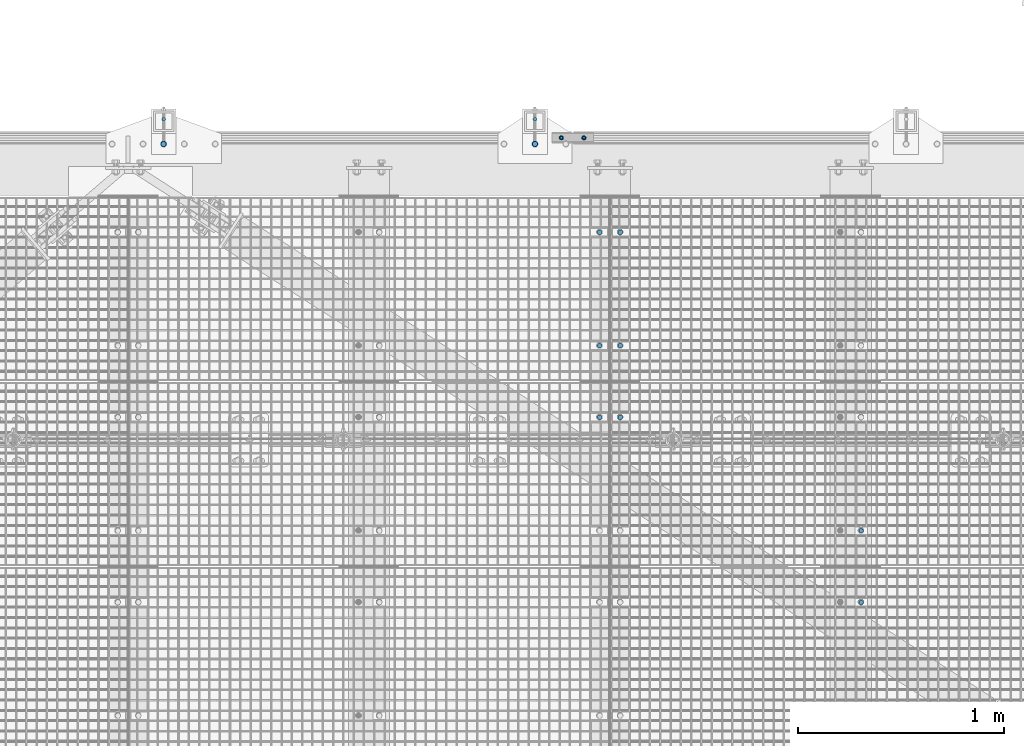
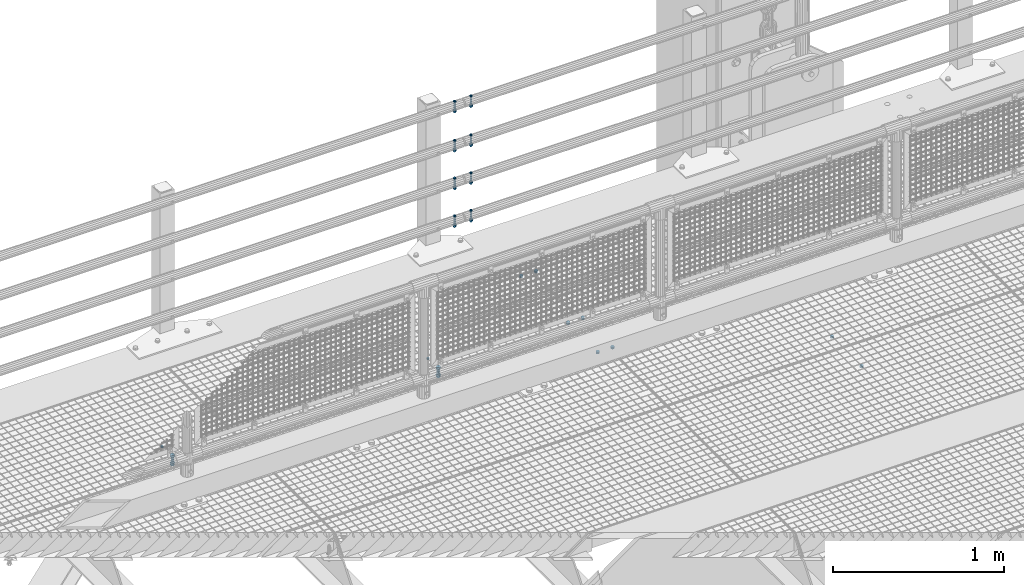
# One storey, part 93 of 1530: 20 mechanical fasteners.
"""IFC2X3 building model written with IfcOpenShell, lengths in millimetres."""

from ifc_helpers import new_model, si_unit, frame, origin_with_axes, place, context, subcontext, project, spatial, faceted_brep, source, transform, mapped, material, type_object, element, save


model = new_model("IFC2X3")

# Units and contexts
model_context = context("Model", 3, precision=1e-05, world=origin_with_axes())
body_context = subcontext(model_context, "Body", "Model", "MODEL_VIEW")
ifc_project = project(units=[si_unit("LENGTHUNIT", "METRE", prefix="MILLI"), si_unit("AREAUNIT", "SQUARE_METRE"), si_unit("VOLUMEUNIT", "CUBIC_METRE"), si_unit("MASSUNIT", "GRAM", prefix="KILO"), si_unit("TIMEUNIT", "SECOND"), si_unit("PLANEANGLEUNIT", "RADIAN"), si_unit("SOLIDANGLEUNIT", "STERADIAN"), si_unit("THERMODYNAMICTEMPERATUREUNIT", "DEGREE_CELSIUS"), si_unit("LUMINOUSINTENSITYUNIT", "LUMEN")], contexts=[model_context])

# Site, building, storey
site_placement = place(None, origin_with_axes())
site = spatial("IfcSite", under=ifc_project, at=site_placement, Name="Brattvåg", CompositionType="ELEMENT")
building_placement = place(site_placement, origin_with_axes())
building = spatial("IfcBuilding", under=site, at=building_placement, Name="Undefined", CompositionType="ELEMENT")
storey_placement = place(building_placement, origin_with_axes())
storey = spatial("IfcBuildingStorey", under=building, at=storey_placement, Name="Undefined", CompositionType="ELEMENT", Elevation=0.0)

# Mechanical fasteners
ifc_material = material(Name="8")
mechanical_fastener_type = type_object("IfcMechanicalFastenerType", Name="Bolt assembly")
shared_shape_1 = source(origin_with_axes(), body_context, "Body", "Brep", [
    faceted_brep([(11.0, -4.99999999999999, 0.0), (9.52627944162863, -4.99999999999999, 5.50000000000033), (5.49999999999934, -4.99999999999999, 9.5262794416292), (-1.13996957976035e-12, -4.99999999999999, 11.0), (-5.50000000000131, -4.99999999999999, 9.52627944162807), (-9.52627944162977, -4.99999999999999, 5.49999999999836), (-11.0, -4.99999999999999, -2.27993915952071e-12), (-9.5262794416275, -4.99999999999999, -5.5000000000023), (-5.49999999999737, -4.99999999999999, -9.52627944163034), (3.40769628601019e-12, -4.99999999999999, -11.0), (5.50000000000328, -4.99999999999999, -9.52627944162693), (9.52627944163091, -4.99999999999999, -5.49999999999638), (9.52627944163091, 10.1, -5.49999999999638), (5.50000000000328, 10.1, -9.52627944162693), (3.40769628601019e-12, 10.1, -11.0), (-5.49999999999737, 10.1, -9.52627944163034), (-9.5262794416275, 10.1, -5.5000000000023), (-11.0, 10.1, -2.27993915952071e-12), (-9.52627944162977, 10.1, 5.49999999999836), (-5.50000000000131, 10.1, 9.52627944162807), (-1.13996957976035e-12, 10.1, 11.0), (5.49999999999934, 10.1, 9.5262794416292), (9.52627944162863, 10.1, 5.50000000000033), (11.0, 10.1, 0.0)], [[[0, 1, 2, 3, 4, 5, 6, 7, 8, 9, 10, 11]], [[12, 13, 14, 15, 16, 17, 18, 19, 20, 21, 22, 23]], [[0, 23, 22, 1]], [[1, 22, 21, 2]], [[2, 21, 20, 3]], [[3, 20, 19, 4]], [[4, 19, 18, 5]], [[5, 18, 17, 6]], [[6, 17, 16, 7]], [[7, 16, 15, 8]], [[8, 15, 14, 9]], [[9, 14, 13, 10]], [[10, 13, 12, 11]], [[11, 12, 23, 0]]]),
])
for number, where, z_axis, x_axis, name in (
    (1, (9964.00477935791, 8121.98931152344, -35.0), (0.0, 1.0, 0.0), (1.0, 0.0, 0.0), "Bolt assembly"),
    (2, (9964.00477935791, 8671.99411010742, -35.0), (0.0, 1.0, 0.0), (1.0, 0.0, 0.0), "Bolt assembly"),
    (3, (9964.00477935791, 7774.99411010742, -35.0), (0.0, 1.0, 0.0), (1.0, 0.0, 0.0), "Bolt assembly"),
    (4, (11132.0119254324, 7224.99, -35.0), (0.0, -1.0, 0.0), (-1.0, 1.99999855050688e-09, 0.0), "Bolt assembly"),
    (5, (11132.0145606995, 6877.99565124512, -35.0), (0.0, -1.0, 0.0), (-1.0, 1.99999855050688e-09, 0.0), "Bolt assembly"),
    (6, (9864.01487731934, 8671.99411010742, -35.0), (0.0, -1.0, 0.0), (-1.0, 1.99999855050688e-09, 0.0), "Bolt assembly"),
    (7, (9864.01487731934, 8121.9904864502, -35.0), (0.0, -1.0, 0.0), (-1.0, 1.99999855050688e-09, 0.0), "Bolt assembly"),
    (8, (9864.01487731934, 7774.99411010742, -35.0), (0.0, -1.0, 0.0), (-1.0, 1.99999855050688e-09, 0.0), "Bolt assembly"),
):
    element("IfcMechanicalFastener", number, at=place(storey_placement, frame(where, z_axis=z_axis, x_axis=x_axis)), inside=storey, type_object=mechanical_fastener_type, material=ifc_material, Name=name, NominalDiameter=20.0, NominalLength=15.0, context=body_context, shape_type="MappedRepresentation", body=[
        mapped(shared_shape_1, transform((0.0, 0.0, 0.0))),
    ])
shared_shape_2 = source(origin_with_axes(), body_context, "Body", "Brep", [
    faceted_brep([(9.0, -0.000108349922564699, 0.0), (7.79422863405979, -0.000108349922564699, 4.50000000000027), (4.49999999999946, -0.000108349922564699, 7.79422863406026), (-9.3270238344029e-13, -0.000108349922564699, 9.0), (-4.50000000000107, -0.000108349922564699, 7.79422863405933), (-7.79422863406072, -0.000108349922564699, 4.49999999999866), (-9.0, -0.000108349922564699, -1.86540476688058e-12), (-7.79422863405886, -0.000108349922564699, -4.50000000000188), (-4.49999999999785, -0.000108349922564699, -7.79422863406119), (2.78811514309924e-12, -0.000108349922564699, -9.0), (4.50000000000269, -0.000108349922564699, -7.7942286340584), (7.79422863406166, -0.000108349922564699, -4.49999999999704), (7.79422863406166, 10.0998916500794, -4.49999999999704), (4.50000000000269, 10.0998916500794, -7.7942286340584), (2.78811514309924e-12, 10.0998916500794, -9.0), (-4.49999999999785, 10.0998916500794, -7.79422863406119), (-7.79422863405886, 10.0998916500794, -4.50000000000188), (-9.0, 10.0998916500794, -1.86540476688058e-12), (-7.79422863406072, 10.0998916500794, 4.49999999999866), (-4.50000000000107, 10.0998916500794, 7.79422863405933), (-9.3270238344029e-13, 10.0998916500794, 9.0), (4.49999999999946, 10.0998916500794, 7.79422863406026), (7.79422863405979, 10.0998916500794, 4.50000000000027), (9.0, 10.0998916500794, 0.0)], [[[0, 1, 2, 3, 4, 5, 6, 7, 8, 9, 10, 11]], [[12, 13, 14, 15, 16, 17, 18, 19, 20, 21, 22, 23]], [[0, 23, 22, 1]], [[1, 22, 21, 2]], [[2, 21, 20, 3]], [[3, 20, 19, 4]], [[4, 19, 18, 5]], [[5, 18, 17, 6]], [[6, 17, 16, 7]], [[7, 16, 15, 8]], [[8, 15, 14, 9]], [[9, 14, 13, 10]], [[10, 13, 12, 11]], [[11, 12, 23, 0]]]),
])
for number, where, z_axis, x_axis, name in (
    (9, (7750.00016021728, 9219.99992874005, -855.000061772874), (-1.0, 1.99999855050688e-09, 0.0), (0.0, -0.99999999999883, 1.53000000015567e-06), "Bolt assembly"),
    (10, (9550.00016021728, 9219.99992874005, -855.000061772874), (-1.0, 1.99999855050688e-09, 0.0), (0.0, -0.99999999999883, 1.53000000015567e-06), "Bolt assembly"),
):
    element("IfcMechanicalFastener", number, at=place(storey_placement, frame(where, z_axis=z_axis, x_axis=x_axis)), inside=storey, type_object=mechanical_fastener_type, material=ifc_material, Name=name, NominalDiameter=16.0, NominalLength=10.0001087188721, context=body_context, shape_type="MappedRepresentation", body=[
        mapped(shared_shape_2, transform((0.0, 0.0, 0.0))),
    ])
shared_shape_3 = source(origin_with_axes(), body_context, "Body", "Brep", [
    faceted_brep([(6.49435320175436, -7.50000000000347, 0.0), (4.59220118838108, -7.50000000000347, 4.59220118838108), (3.97664443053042e-16, -7.50000000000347, 6.49435320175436), (-4.59220118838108, -7.50000000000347, 4.59220118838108), (-6.49435320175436, -7.50000000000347, 7.95328886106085e-16), (-4.59220118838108, -7.50000000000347, -4.59220118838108), (-1.19299332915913e-15, -7.50000000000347, -6.49435320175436), (4.59220118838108, -7.50000000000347, -4.59220118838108), (7.34846922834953, -3.46744855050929e-12, -7.34846922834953), (-1.90903542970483e-15, -3.46744855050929e-12, -10.3923048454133), (-7.34846922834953, -3.46744855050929e-12, -7.34846922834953), (-10.3923048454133, 3.46808519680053e-07, 1.27269028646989e-15), (-7.34846922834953, -3.46744855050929e-12, 7.34846922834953), (6.36345143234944e-16, -3.46744855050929e-12, 10.3923048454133), (7.34846922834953, -3.46744855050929e-12, 7.34846922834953), (10.3923048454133, 3.46808519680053e-07, 0.0), (6.0, 3.46808519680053e-07, 0.0), (5.19615242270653, 3.46808519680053e-07, 3.00000000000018), (2.99999999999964, 3.46808519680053e-07, 5.19615242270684), (-6.21801588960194e-13, 3.46808519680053e-07, 6.0), (-3.00000000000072, 3.46808519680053e-07, 5.19615242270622), (-5.19615242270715, 3.46808519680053e-07, 2.9999999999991), (-6.0, 3.46808519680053e-07, -1.24360317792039e-12), (-5.19615242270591, 3.46808519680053e-07, -3.00000000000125), (-2.99999999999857, 3.46808519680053e-07, -5.19615242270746), (1.85874342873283e-12, 3.46808519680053e-07, -6.0), (3.00000000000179, 3.46808519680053e-07, -5.1961524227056), (5.19615242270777, 3.46808519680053e-07, -2.99999999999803), (5.19615242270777, 79.9999999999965, -2.99999999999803), (3.00000000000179, 79.9999999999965, -5.1961524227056), (1.85874342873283e-12, 79.9999999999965, -6.0), (-2.99999999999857, 79.9999999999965, -5.19615242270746), (-5.19615242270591, 79.9999999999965, -3.00000000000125), (-6.0, 79.9999999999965, -1.24360317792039e-12), (-5.19615242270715, 79.9999999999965, 2.9999999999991), (-3.00000000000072, 79.9999999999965, 5.19615242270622), (-6.21801588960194e-13, 79.9999999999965, 6.0), (2.99999999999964, 79.9999999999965, 5.19615242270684), (5.19615242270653, 79.9999999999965, 3.00000000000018), (6.0, 79.9999999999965, 0.0), (12.0, 60.2988956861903, 0.0), (10.3923048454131, 60.2988956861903, 6.00000000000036), (5.99999999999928, 60.2988956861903, 10.3923048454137), (-1.24360317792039e-12, 60.2988956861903, 12.0), (-6.00000000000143, 60.2988956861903, 10.3923048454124), (-10.3923048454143, 60.2988956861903, 5.99999999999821), (-12.0, 60.2988956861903, -2.48720635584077e-12), (-10.3923048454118, 60.2988956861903, -6.00000000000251), (-5.99999999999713, 60.2988956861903, -10.3923048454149), (3.71748685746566e-12, 60.2988956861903, -12.0), (6.00000000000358, 60.2988956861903, -10.3923048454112), (10.3923048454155, 60.2988956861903, -5.99999999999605), (10.3923048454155, 62.7988956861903, -5.99999999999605), (6.00000000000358, 62.7988956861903, -10.3923048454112), (3.71748685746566e-12, 62.7988956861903, -12.0), (-5.99999999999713, 62.7988956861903, -10.3923048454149), (-10.3923048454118, 62.7988956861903, -6.00000000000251), (-12.0, 62.7988956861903, -2.48720635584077e-12), (-10.3923048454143, 62.7988956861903, 5.99999999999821), (-6.00000000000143, 62.7988956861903, 10.3923048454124), (-1.24360317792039e-12, 62.7988956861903, 12.0), (5.99999999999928, 62.7988956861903, 10.3923048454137), (10.3923048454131, 62.7988956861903, 6.00000000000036), (12.0, 62.7988956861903, 0.0), (10.9696551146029, 62.7988956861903, 0.0), (5.48482755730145, 62.7988956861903, 9.5), (-5.48482755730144, 62.7988956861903, 9.5), (-10.9696551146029, 62.7988956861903, 1.34339530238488e-15), (-5.48482755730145, 62.7988956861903, -9.5), (5.48482755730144, 62.7988956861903, -9.5), (5.48482755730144, 73.5988958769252, -9.5), (-5.48482755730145, 73.5988958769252, -9.5), (-10.9696551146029, 73.5988958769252, 1.34339530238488e-15), (-5.48482755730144, 73.5988958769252, 9.5), (5.48482755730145, 73.5988958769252, 9.5), (10.9696551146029, 73.5988958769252, 0.0)], [[[0, 1, 2, 3, 4, 5, 6, 7]], [[8, 9, 10, 11, 12, 13, 14, 15]], [[0, 15, 14, 1]], [[1, 14, 13, 2]], [[2, 13, 12, 3]], [[3, 12, 11, 4]], [[4, 11, 10, 5]], [[5, 10, 9, 6]], [[6, 9, 8, 7]], [[7, 8, 15, 0]], [[16, 17, 18, 19, 20, 21, 22, 23, 24, 25, 26, 27]], [[28, 29, 30, 31, 32, 33, 34, 35, 36, 37, 38, 39]], [[16, 39, 38, 17]], [[17, 38, 37, 18]], [[18, 37, 36, 19]], [[19, 36, 35, 20]], [[20, 35, 34, 21]], [[21, 34, 33, 22]], [[22, 33, 32, 23]], [[23, 32, 31, 24]], [[24, 31, 30, 25]], [[25, 30, 29, 26]], [[26, 29, 28, 27]], [[27, 28, 39, 16]], [[40, 41, 42, 43, 44, 45, 46, 47, 48, 49, 50, 51]], [[52, 53, 54, 55, 56, 57, 58, 59, 60, 61, 62, 63]], [[40, 63, 62, 41]], [[41, 62, 61, 42]], [[42, 61, 60, 43]], [[43, 60, 59, 44]], [[44, 59, 58, 45]], [[45, 58, 57, 46]], [[46, 57, 56, 47]], [[47, 56, 55, 48]], [[48, 55, 54, 49]], [[49, 54, 53, 50]], [[50, 53, 52, 51]], [[51, 52, 63, 40]], [[64, 65, 66, 67, 68, 69]], [[70, 71, 72, 73, 74, 75]], [[64, 75, 74, 65]], [[65, 74, 73, 66]], [[66, 73, 72, 67]], [[67, 72, 71, 68]], [[68, 71, 70, 69]], [[69, 70, 75, 64]]]),
    faceted_brep([(6.5, 0.100000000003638, 0.0), (5.62916512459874, 0.100000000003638, 3.25000000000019), (3.24999999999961, 0.100000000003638, 5.62916512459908), (-6.7361838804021e-13, 0.100000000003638, 6.5), (-3.25000000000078, 0.100000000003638, 5.6291651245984), (-5.62916512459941, 0.100000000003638, 3.24999999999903), (-6.5, 0.100000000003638, -1.34723677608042e-12), (-5.62916512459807, 0.100000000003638, -3.25000000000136), (-3.24999999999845, 0.100000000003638, -5.62916512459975), (2.01363871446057e-12, 0.100000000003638, -6.5), (3.25000000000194, 0.100000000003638, -5.62916512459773), (5.62916512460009, 0.100000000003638, -3.24999999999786), (5.62916512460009, 60.3988956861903, -3.24999999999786), (3.25000000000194, 60.3988956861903, -5.62916512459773), (2.01363871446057e-12, 60.3988956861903, -6.5), (-3.24999999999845, 60.3988956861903, -5.62916512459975), (-5.62916512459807, 60.3988956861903, -3.25000000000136), (-6.5, 60.3988956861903, -1.34723677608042e-12), (-5.62916512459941, 60.3988956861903, 3.24999999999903), (-3.25000000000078, 60.3988956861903, 5.6291651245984), (-6.7361838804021e-13, 60.3988956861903, 6.5), (3.24999999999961, 60.3988956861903, 5.62916512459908), (5.62916512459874, 60.3988956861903, 3.25000000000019), (6.5, 60.3988956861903, 0.0), (6.5, 4.25026510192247, 0.0), (5.62916512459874, 4.25026510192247, 3.25000000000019), (3.24999999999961, 4.25026510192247, 5.62916512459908), (-6.7361838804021e-13, 4.25026510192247, 6.5), (-3.25000000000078, 4.25026510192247, 5.6291651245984), (-5.62916512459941, 4.25026510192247, 3.24999999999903), (-6.5, 4.25026510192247, -1.34723677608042e-12), (-5.62916512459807, 4.25026510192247, -3.25000000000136), (-3.24999999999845, 4.25026510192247, -5.62916512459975), (2.01363871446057e-12, 4.25026510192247, -6.5), (3.25000000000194, 4.25026510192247, -5.62916512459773), (5.62916512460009, 4.25026510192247, -3.24999999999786), (5.62916512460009, 55.3491717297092, -3.24999999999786), (3.25000000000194, 55.3491717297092, -5.62916512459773), (2.01363871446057e-12, 55.3491717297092, -6.5), (-3.24999999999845, 55.3491717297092, -5.62916512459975), (-5.62916512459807, 55.3491717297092, -3.25000000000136), (-6.5, 55.3491717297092, -1.34723677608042e-12), (-5.62916512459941, 55.3491717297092, 3.24999999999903), (-3.25000000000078, 55.3491717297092, 5.6291651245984), (-6.7361838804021e-13, 55.3491717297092, 6.5), (3.24999999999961, 55.3491717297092, 5.62916512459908), (5.62916512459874, 55.3491717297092, 3.25000000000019), (6.5, 55.3491717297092, 0.0)], [[[0, 1, 2, 3, 4, 5, 6, 7, 8, 9, 10, 11]], [[12, 13, 14, 15, 16, 17, 18, 19, 20, 21, 22, 23]], [[0, 23, 22, 1]], [[1, 22, 21, 2]], [[2, 21, 20, 3]], [[3, 20, 19, 4]], [[4, 19, 18, 5]], [[5, 18, 17, 6]], [[6, 17, 16, 7]], [[7, 16, 15, 8]], [[8, 15, 14, 9]], [[9, 14, 13, 10]], [[10, 13, 12, 11]], [[11, 12, 23, 0]], [[24, 25, 26, 27, 28, 29, 30, 31, 32, 33, 34, 35]], [[36, 37, 38, 39, 40, 41, 42, 43, 44, 45, 46, 47]], [[24, 47, 46, 25]], [[25, 46, 45, 26]], [[26, 45, 44, 27]], [[27, 44, 43, 28]], [[28, 43, 42, 29]], [[29, 42, 41, 30]], [[30, 41, 40, 31]], [[31, 40, 39, 32]], [[32, 39, 38, 33]], [[33, 38, 37, 34]], [[34, 37, 36, 35]], [[35, 36, 47, 24]]]),
])
for number, where, z_axis, x_axis, name in (
    (11, (9678.00013732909, 9129.84988021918, 179.7000579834), (1.0, 0.0, 0.0), (0.0, -0.999999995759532, -9.20919999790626e-05), "Bolt assembly"),
    (12, (9678.00013732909, 9129.84988021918, 449.7000579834), (1.0, 0.0, 0.0), (0.0, -0.999999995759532, -9.20919999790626e-05), "Bolt assembly"),
    (13, (9678.00013732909, 9129.84988021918, 719.7000579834), (1.0, 0.0, 0.0), (0.0, -0.999999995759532, -9.20919999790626e-05), "Bolt assembly"),
    (14, (9787.99986267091, 9129.84988021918, 179.7000579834), (1.0, 0.0, 0.0), (0.0, -0.999999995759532, -9.20919999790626e-05), "Bolt assembly"),
    (15, (9787.99986267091, 9129.84988021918, 449.7000579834), (1.0, 0.0, 0.0), (0.0, -0.999999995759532, -9.20919999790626e-05), "Bolt assembly"),
    (16, (9787.99986267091, 9129.84988021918, 719.7000579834), (1.0, 0.0, 0.0), (0.0, -0.999999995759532, -9.20919999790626e-05), "Bolt assembly"),
    (17, (9678.00013732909, 9129.84988021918, 999.7000579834), (1.0, 0.0, 0.0), (0.0, -0.999999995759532, -9.20919999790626e-05), "Bolt assembly"),
    (18, (9787.99986267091, 9129.84988021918, 999.7000579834), (1.0, 0.0, 0.0), (0.0, -0.999999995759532, -9.20919999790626e-05), "Bolt assembly"),
):
    element("IfcMechanicalFastener", number, at=place(storey_placement, frame(where, z_axis=z_axis, x_axis=x_axis)), inside=storey, type_object=mechanical_fastener_type, material=ifc_material, Name=name, NominalDiameter=12.0, NominalLength=80.0, context=body_context, shape_type="MappedRepresentation", body=[
        mapped(shared_shape_3, transform((0.0, 0.0, 0.0))),
    ])
shared_shape_4 = source(origin_with_axes(), body_context, "Body", "Brep", [
    faceted_brep([(13.856406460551, -12.9998916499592, 0.0), (6.92820323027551, -12.9998916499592, 12.0), (-6.92820323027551, -12.9998916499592, 12.0), (-13.856406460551, -12.9998916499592, 1.69692038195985e-15), (-6.92820323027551, -12.9998916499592, -12.0), (6.9282032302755, -12.9998916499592, -12.0), (6.9282032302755, -2.99989164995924, -12.0), (-6.92820323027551, -2.99989164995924, -12.0), (-13.856406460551, -2.99989164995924, 1.69692038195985e-15), (-6.92820323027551, -2.99989164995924, 12.0), (6.92820323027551, -2.99989164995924, 12.0), (13.856406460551, -2.99989164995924, 0.0), (8.0, -2.99989164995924, 0.0), (6.92820323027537, -2.99989164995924, 4.00000000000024), (3.99999999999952, -2.99989164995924, 6.92820323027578), (-8.29068785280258e-13, -2.99989164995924, 8.0), (-4.00000000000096, -2.99989164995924, 6.92820323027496), (-6.9282032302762, -2.99989164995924, 3.99999999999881), (-8.0, -2.99989164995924, -1.65813757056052e-12), (-6.92820323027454, -2.99989164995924, -4.00000000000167), (-3.99999999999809, -2.99989164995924, -6.92820323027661), (2.47832457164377e-12, -2.99989164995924, -8.0), (4.00000000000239, -2.99989164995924, -6.92820323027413), (6.92820323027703, -2.99989164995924, -3.99999999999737), (6.92820323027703, 67.0001083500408, -3.99999999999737), (4.00000000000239, 67.0001083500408, -6.92820323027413), (2.47832457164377e-12, 67.0001083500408, -8.0), (-3.99999999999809, 67.0001083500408, -6.92820323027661), (-6.92820323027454, 67.0001083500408, -4.00000000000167), (-8.0, 67.0001083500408, -1.65813757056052e-12), (-6.9282032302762, 67.0001083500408, 3.99999999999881), (-4.00000000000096, 67.0001083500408, 6.92820323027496), (-8.29068785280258e-13, 67.0001083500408, 8.0), (3.99999999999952, 67.0001083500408, 6.92820323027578), (6.92820323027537, 67.0001083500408, 4.00000000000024), (8.0, 67.0001083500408, 0.0), (15.0, -2.99989164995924, 0.0), (12.9903810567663, -2.99989164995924, 7.50000000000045), (7.4999999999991, -2.99989164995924, 12.9903810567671), (-1.55450397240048e-12, -2.99989164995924, 15.0), (-7.50000000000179, -2.99989164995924, 12.9903810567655), (-12.9903810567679, -2.99989164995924, 7.49999999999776), (-15.0, -2.99989164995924, -3.10900794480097e-12), (-12.9903810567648, -2.99989164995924, -7.50000000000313), (-7.49999999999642, -2.99989164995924, -12.9903810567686), (4.64685857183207e-12, -2.99989164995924, -15.0), (7.50000000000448, -2.99989164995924, -12.990381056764), (12.9903810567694, -2.99989164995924, -7.49999999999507), (12.9903810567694, 0.000108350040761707, -7.49999999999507), (7.50000000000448, 0.000108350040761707, -12.990381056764), (4.64685857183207e-12, 0.000108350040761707, -15.0), (-7.49999999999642, 0.000108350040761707, -12.9903810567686), (-12.9903810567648, 0.000108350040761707, -7.50000000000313), (-15.0, 0.000108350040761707, -3.10900794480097e-12), (-12.9903810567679, 0.000108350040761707, 7.49999999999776), (-7.50000000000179, 0.000108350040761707, 12.9903810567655), (-1.55450397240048e-12, 0.000108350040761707, 15.0), (7.4999999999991, 0.000108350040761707, 12.9903810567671), (12.9903810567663, 0.000108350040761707, 7.50000000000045), (15.0, 0.000108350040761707, 0.0), (15.0, 45.0001982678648, 0.0), (12.9903810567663, 45.0001982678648, 7.50000000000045), (7.4999999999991, 45.0001982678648, 12.9903810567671), (-1.55450397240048e-12, 45.0001982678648, 15.0), (-7.50000000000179, 45.0001982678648, 12.9903810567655), (-12.9903810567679, 45.0001982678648, 7.49999999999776), (-15.0, 45.0001982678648, -3.10900794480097e-12), (-12.9903810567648, 45.0001982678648, -7.50000000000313), (-7.49999999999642, 45.0001982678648, -12.9903810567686), (4.64685857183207e-12, 45.0001982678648, -15.0), (7.50000000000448, 45.0001982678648, -12.990381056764), (12.9903810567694, 45.0001982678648, -7.49999999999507), (12.9903810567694, 48.0001982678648, -7.49999999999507), (7.50000000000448, 48.0001982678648, -12.990381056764), (4.64685857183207e-12, 48.0001982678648, -15.0), (-7.49999999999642, 48.0001982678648, -12.9903810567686), (-12.9903810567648, 48.0001982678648, -7.50000000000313), (-15.0, 48.0001982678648, -3.10900794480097e-12), (-12.9903810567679, 48.0001982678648, 7.49999999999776), (-7.50000000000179, 48.0001982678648, 12.9903810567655), (-1.55450397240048e-12, 48.0001982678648, 15.0), (7.4999999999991, 48.0001982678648, 12.9903810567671), (12.9903810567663, 48.0001982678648, 7.50000000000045), (15.0, 48.0001982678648, 0.0), (13.856406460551, 48.0001982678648, 0.0), (6.92820323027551, 48.0001982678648, 12.0), (-6.92820323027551, 48.0001982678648, 12.0), (-13.856406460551, 48.0001982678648, 1.69692038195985e-15), (-6.92820323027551, 48.0001982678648, -12.0), (6.9282032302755, 48.0001982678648, -12.0), (6.9282032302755, 62.8001984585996, -12.0), (-6.92820323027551, 62.8001984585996, -12.0), (-13.856406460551, 62.8001984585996, 1.69692038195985e-15), (-6.92820323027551, 62.8001984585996, 12.0), (6.92820323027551, 62.8001984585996, 12.0), (13.856406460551, 62.8001984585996, 0.0)], [[[0, 1, 2, 3, 4, 5]], [[6, 7, 8, 9, 10, 11]], [[0, 11, 10, 1]], [[1, 10, 9, 2]], [[2, 9, 8, 3]], [[3, 8, 7, 4]], [[4, 7, 6, 5]], [[5, 6, 11, 0]], [[12, 13, 14, 15, 16, 17, 18, 19, 20, 21, 22, 23]], [[24, 25, 26, 27, 28, 29, 30, 31, 32, 33, 34, 35]], [[12, 35, 34, 13]], [[13, 34, 33, 14]], [[14, 33, 32, 15]], [[15, 32, 31, 16]], [[16, 31, 30, 17]], [[17, 30, 29, 18]], [[18, 29, 28, 19]], [[19, 28, 27, 20]], [[20, 27, 26, 21]], [[21, 26, 25, 22]], [[22, 25, 24, 23]], [[23, 24, 35, 12]], [[36, 37, 38, 39, 40, 41, 42, 43, 44, 45, 46, 47]], [[48, 49, 50, 51, 52, 53, 54, 55, 56, 57, 58, 59]], [[36, 59, 58, 37]], [[37, 58, 57, 38]], [[38, 57, 56, 39]], [[39, 56, 55, 40]], [[40, 55, 54, 41]], [[41, 54, 53, 42]], [[42, 53, 52, 43]], [[43, 52, 51, 44]], [[44, 51, 50, 45]], [[45, 50, 49, 46]], [[46, 49, 48, 47]], [[47, 48, 59, 36]], [[60, 61, 62, 63, 64, 65, 66, 67, 68, 69, 70, 71]], [[72, 73, 74, 75, 76, 77, 78, 79, 80, 81, 82, 83]], [[60, 83, 82, 61]], [[61, 82, 81, 62]], [[62, 81, 80, 63]], [[63, 80, 79, 64]], [[64, 79, 78, 65]], [[65, 78, 77, 66]], [[66, 77, 76, 67]], [[67, 76, 75, 68]], [[68, 75, 74, 69]], [[69, 74, 73, 70]], [[70, 73, 72, 71]], [[71, 72, 83, 60]], [[84, 85, 86, 87, 88, 89]], [[90, 91, 92, 93, 94, 95]], [[84, 95, 94, 85]], [[85, 94, 93, 86]], [[86, 93, 92, 87]], [[87, 92, 91, 88]], [[88, 91, 90, 89]], [[89, 90, 95, 84]]]),
    faceted_brep([(9.0, 0.100108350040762, 0.0), (7.79422863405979, 0.100108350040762, 4.50000000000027), (4.49999999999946, 0.100108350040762, 7.79422863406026), (-9.3270238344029e-13, 0.100108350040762, 9.0), (-4.50000000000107, 0.100108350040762, 7.79422863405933), (-7.79422863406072, 0.100108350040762, 4.49999999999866), (-9.0, 0.100108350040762, -1.86540476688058e-12), (-7.79422863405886, 0.100108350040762, -4.50000000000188), (-4.49999999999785, 0.100108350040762, -7.79422863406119), (2.78811514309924e-12, 0.100108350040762, -9.0), (4.50000000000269, 0.100108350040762, -7.7942286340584), (7.79422863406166, 0.100108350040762, -4.49999999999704), (7.79422863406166, 10.10010835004, -4.49999999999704), (4.50000000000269, 10.10010835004, -7.7942286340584), (2.78811514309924e-12, 10.10010835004, -9.0), (-4.49999999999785, 10.10010835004, -7.79422863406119), (-7.79422863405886, 10.10010835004, -4.50000000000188), (-9.0, 10.10010835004, -1.86540476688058e-12), (-7.79422863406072, 10.10010835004, 4.49999999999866), (-4.50000000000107, 10.10010835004, 7.79422863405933), (-9.3270238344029e-13, 10.10010835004, 9.0), (4.49999999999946, 10.10010835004, 7.79422863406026), (7.79422863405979, 10.10010835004, 4.50000000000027), (9.0, 10.10010835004, 0.0), (9.0, 10.0002383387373, 0.0), (7.79422863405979, 10.0002383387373, 4.50000000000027), (4.49999999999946, 10.0002383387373, 7.79422863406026), (-9.3270238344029e-13, 10.0002383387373, 9.0), (-4.50000000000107, 10.0002383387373, 7.79422863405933), (-7.79422863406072, 10.0002383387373, 4.49999999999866), (-9.0, 10.0002383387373, -1.86540476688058e-12), (-7.79422863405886, 10.0002383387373, -4.50000000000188), (-4.49999999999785, 10.0002383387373, -7.79422863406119), (2.78811514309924e-12, 10.0002383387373, -9.0), (4.50000000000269, 10.0002383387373, -7.7942286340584), (7.79422863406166, 10.0002383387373, -4.49999999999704), (7.79422863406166, 15.000238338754, -4.49999999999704), (4.50000000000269, 15.000238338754, -7.7942286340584), (2.78811514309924e-12, 15.000238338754, -9.0), (-4.49999999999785, 15.000238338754, -7.79422863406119), (-7.79422863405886, 15.000238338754, -4.50000000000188), (-9.0, 15.000238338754, -1.86540476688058e-12), (-7.79422863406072, 15.000238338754, 4.49999999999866), (-4.50000000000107, 15.000238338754, 7.79422863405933), (-9.3270238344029e-13, 15.000238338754, 9.0), (4.49999999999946, 15.000238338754, 7.79422863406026), (7.79422863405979, 15.000238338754, 4.50000000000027), (9.0, 15.000238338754, 0.0), (9.0, 14.9001982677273, 0.0), (7.79422863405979, 14.9001982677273, 4.50000000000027), (4.49999999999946, 14.9001982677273, 7.79422863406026), (-9.3270238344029e-13, 14.9001982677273, 9.0), (-4.50000000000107, 14.9001982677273, 7.79422863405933), (-7.79422863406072, 14.9001982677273, 4.49999999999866), (-9.0, 14.9001982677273, -1.86540476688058e-12), (-7.79422863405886, 14.9001982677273, -4.50000000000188), (-4.49999999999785, 14.9001982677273, -7.79422863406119), (2.78811514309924e-12, 14.9001982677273, -9.0), (4.50000000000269, 14.9001982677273, -7.7942286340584), (7.79422863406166, 14.9001982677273, -4.49999999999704), (7.79422863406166, 45.0001982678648, -4.49999999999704), (4.50000000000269, 45.0001982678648, -7.7942286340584), (2.78811514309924e-12, 45.0001982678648, -9.0), (-4.49999999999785, 45.0001982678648, -7.79422863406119), (-7.79422863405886, 45.0001982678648, -4.50000000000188), (-9.0, 45.0001982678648, -1.86540476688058e-12), (-7.79422863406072, 45.0001982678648, 4.49999999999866), (-4.50000000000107, 45.0001982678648, 7.79422863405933), (-9.3270238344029e-13, 45.0001982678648, 9.0), (4.49999999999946, 45.0001982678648, 7.79422863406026), (7.79422863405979, 45.0001982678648, 4.50000000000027), (9.0, 45.0001982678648, 0.0)], [[[0, 1, 2, 3, 4, 5, 6, 7, 8, 9, 10, 11]], [[12, 13, 14, 15, 16, 17, 18, 19, 20, 21, 22, 23]], [[0, 23, 22, 1]], [[1, 22, 21, 2]], [[2, 21, 20, 3]], [[3, 20, 19, 4]], [[4, 19, 18, 5]], [[5, 18, 17, 6]], [[6, 17, 16, 7]], [[7, 16, 15, 8]], [[8, 15, 14, 9]], [[9, 14, 13, 10]], [[10, 13, 12, 11]], [[11, 12, 23, 0]], [[24, 25, 26, 27, 28, 29, 30, 31, 32, 33, 34, 35]], [[36, 37, 38, 39, 40, 41, 42, 43, 44, 45, 46, 47]], [[24, 47, 46, 25]], [[25, 46, 45, 26]], [[26, 45, 44, 27]], [[27, 44, 43, 28]], [[28, 43, 42, 29]], [[29, 42, 41, 30]], [[30, 41, 40, 31]], [[31, 40, 39, 32]], [[32, 39, 38, 33]], [[33, 38, 37, 34]], [[34, 37, 36, 35]], [[35, 36, 47, 24]], [[48, 49, 50, 51, 52, 53, 54, 55, 56, 57, 58, 59]], [[60, 61, 62, 63, 64, 65, 66, 67, 68, 69, 70, 71]], [[48, 71, 70, 49]], [[49, 70, 69, 50]], [[50, 69, 68, 51]], [[51, 68, 67, 52]], [[52, 67, 66, 53]], [[53, 66, 65, 54]], [[54, 65, 64, 55]], [[55, 64, 63, 56]], [[56, 63, 62, 57]], [[57, 62, 61, 58]], [[58, 61, 60, 59]], [[59, 60, 71, 48]]]),
])
for number, where, z_axis, x_axis, name in (
    (19, (7750.00016021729, 9099.99968338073, -844.999801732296), (-1.0, 1.99999855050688e-09, 0.0), (0.0, 0.999999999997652, -2.16700000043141e-06), "Bolt assembly"),
    (20, (9550.00016021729, 9099.99968338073, -844.999801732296), (-1.0, 1.99999855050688e-09, 0.0), (0.0, 0.999999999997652, -2.16700000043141e-06), "Bolt assembly"),
):
    element("IfcMechanicalFastener", number, at=place(storey_placement, frame(where, z_axis=z_axis, x_axis=x_axis)), inside=storey, type_object=mechanical_fastener_type, material=ifc_material, Name=name, NominalDiameter=16.0, NominalLength=70.0, context=body_context, shape_type="MappedRepresentation", body=[
        mapped(shared_shape_4, transform((0.0, 0.0, 0.0))),
    ])

save(model, "model.ifc")
